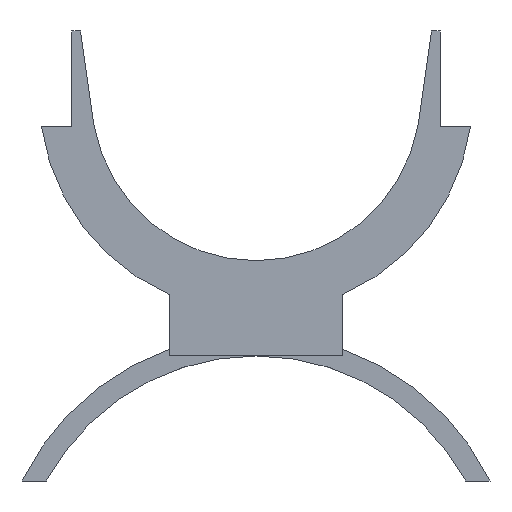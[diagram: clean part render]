
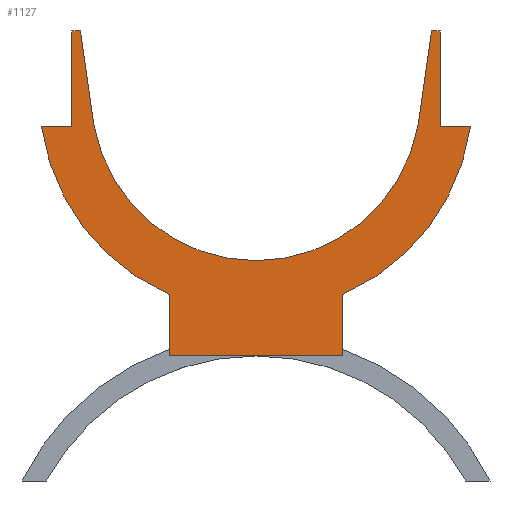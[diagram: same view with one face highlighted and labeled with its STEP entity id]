
A CAD part, front view. The second image highlights one B-rep face of the part: STEP entity #1127.
In plain terms, the highlighted planar face has unit normal (0, -1, 0).
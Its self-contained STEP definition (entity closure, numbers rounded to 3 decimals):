
#46 = FACE_OUTER_BOUND ( 'NONE', #956, .T. ) ;
#77 = CARTESIAN_POINT ( 'NONE',  ( 3.735, -12.7, 8.185 ) ) ;
#94 = CARTESIAN_POINT ( 'NONE',  ( 4.051, -12.7, 10.385 ) ) ;
#101 = DIRECTION ( 'NONE',  ( 0., 0., -1. ) ) ;
#103 = CARTESIAN_POINT ( 'NONE',  ( -4.251, -12.7, 8.185 ) ) ;
#108 = CARTESIAN_POINT ( 'NONE',  ( 0., -12.7, 5.085 ) ) ;
#111 = AXIS2_PLACEMENT_3D ( 'NONE', #1062, #1063, #1064 ) ;
#123 = AXIS2_PLACEMENT_3D ( 'NONE', #716, #717, #718 ) ;
#124 = AXIS2_PLACEMENT_3D ( 'NONE', #743, #744, #745 ) ;
#156 = VERTEX_POINT ( 'NONE', #94 ) ;
#175 = VERTEX_POINT ( 'NONE', #77 ) ;
#176 = VERTEX_POINT ( 'NONE', #108 ) ;
#301 = AXIS2_PLACEMENT_3D ( 'NONE', #1583, #1589, #1590 ) ;
#333 = EDGE_CURVE ( 'NONE', #1456, #1468, #1355, .T. ) ;
#336 = EDGE_CURVE ( 'NONE', #1469, #1456, #1220, .T. ) ;
#338 = EDGE_CURVE ( 'NONE', #1459, #1469, #1226, .T. ) ;
#345 = EDGE_CURVE ( 'NONE', #1468, #1508, #1237, .T. ) ;
#350 = EDGE_CURVE ( 'NONE', #176, #1459, #1246, .T. ) ;
#409 = CARTESIAN_POINT ( 'NONE',  ( -2., -12.7, 5.085 ) ) ;
#410 = DIRECTION ( 'NONE',  ( 0., 0., -1. ) ) ;
#425 = CARTESIAN_POINT ( 'NONE',  ( 4.251, -12.7, 10.385 ) ) ;
#426 = DIRECTION ( 'NONE',  ( 0., 0., 1. ) ) ;
#668 = ORIENTED_EDGE ( 'NONE', *, *, #336, .T. ) ;
#670 = ORIENTED_EDGE ( 'NONE', *, *, #820, .T. ) ;
#671 = ORIENTED_EDGE ( 'NONE', *, *, #806, .T. ) ;
#712 = CARTESIAN_POINT ( 'NONE',  ( 4.251, -12.7, 8.185 ) ) ;
#713 = DIRECTION ( 'NONE',  ( -1., 0., 0. ) ) ;
#716 = CARTESIAN_POINT ( 'NONE',  ( 0., -12.7, 8.885 ) ) ;
#717 = DIRECTION ( 'NONE',  ( 0., -1., 0. ) ) ;
#718 = DIRECTION ( 'NONE',  ( 0., 0., -1. ) ) ;
#721 = CARTESIAN_POINT ( 'NONE',  ( 4.051, -12.7, 10.385 ) ) ;
#722 = DIRECTION ( 'NONE',  ( -1., 0., 0. ) ) ;
#723 = DIRECTION ( 'NONE',  ( 1., 0., 0. ) ) ;
#725 = CARTESIAN_POINT ( 'NONE',  ( 3.735, -12.7, 8.185 ) ) ;
#738 = CARTESIAN_POINT ( 'NONE',  ( -2., -12.7, 2.885 ) ) ;
#740 = DIRECTION ( 'NONE',  ( -0.142, 0., -0.99 ) ) ;
#743 = CARTESIAN_POINT ( 'NONE',  ( 0., -12.7, 8.885 ) ) ;
#744 = DIRECTION ( 'NONE',  ( 0., -1., 0. ) ) ;
#745 = DIRECTION ( 'NONE',  ( 0., 0., -1. ) ) ;
#750 = CARTESIAN_POINT ( 'NONE',  ( 2., -12.7, 2.885 ) ) ;
#751 = DIRECTION ( 'NONE',  ( 0., 0., 1. ) ) ;
#761 = EDGE_CURVE ( 'NONE', #175, #176, #1691, .T. ) ;
#802 = EDGE_CURVE ( 'NONE', #1460, #1486, #1390, .T. ) ;
#803 = EDGE_CURVE ( 'NONE', #1508, #1466, #1392, .T. ) ;
#806 = EDGE_CURVE ( 'NONE', #1474, #156, #1397, .T. ) ;
#809 = EDGE_CURVE ( 'NONE', #156, #175, #1402, .T. ) ;
#810 = EDGE_CURVE ( 'NONE', #1506, #1460, #1403, .T. ) ;
#811 = EDGE_CURVE ( 'NONE', #1491, #1490, #1405, .T. ) ;
#814 = EDGE_CURVE ( 'NONE', #1490, #1506, #1410, .T. ) ;
#818 = EDGE_CURVE ( 'NONE', #1466, #1491, #1418, .T. ) ;
#820 = EDGE_CURVE ( 'NONE', #1486, #1474, #1422, .T. ) ;
#833 = AXIS2_PLACEMENT_3D ( 'NONE', #856, #861, #874 ) ;
#841 = CARTESIAN_POINT ( 'NONE',  ( -4.051, -12.7, 10.385 ) ) ;
#844 = DIRECTION ( 'NONE',  ( -1., 0., 0. ) ) ;
#849 = DIRECTION ( 'NONE',  ( -0.142, 0., 0.99 ) ) ;
#852 = DIRECTION ( 'NONE',  ( -1., 0., 0. ) ) ;
#855 = CARTESIAN_POINT ( 'NONE',  ( -4.951, -12.7, 8.185 ) ) ;
#856 = CARTESIAN_POINT ( 'NONE',  ( 0., -12.7, 8.885 ) ) ;
#861 = DIRECTION ( 'NONE',  ( 0., 1., 0. ) ) ;
#874 = DIRECTION ( 'NONE',  ( 0., 0., -1. ) ) ;
#881 = CARTESIAN_POINT ( 'NONE',  ( -4.251, -12.7, 10.385 ) ) ;
#894 = CARTESIAN_POINT ( 'NONE',  ( 4.251, -12.7, 8.185 ) ) ;
#898 = CARTESIAN_POINT ( 'NONE',  ( 2., -12.7, 2.885 ) ) ;
#899 = CARTESIAN_POINT ( 'NONE',  ( -2., -12.7, 2.885 ) ) ;
#914 = CARTESIAN_POINT ( 'NONE',  ( 2., -12.7, 4.302 ) ) ;
#916 = CARTESIAN_POINT ( 'NONE',  ( -4.951, -12.7, 8.185 ) ) ;
#956 = EDGE_LOOP ( 'NONE', ( #1139, #1441, #1004, #1000, #1003, #976, #670, #671, #975, #968, #964, #978, #668, #974, #984 ) ) ;
#964 = ORIENTED_EDGE ( 'NONE', *, *, #350, .T. ) ;
#968 = ORIENTED_EDGE ( 'NONE', *, *, #761, .T. ) ;
#974 = ORIENTED_EDGE ( 'NONE', *, *, #333, .T. ) ;
#975 = ORIENTED_EDGE ( 'NONE', *, *, #809, .T. ) ;
#976 = ORIENTED_EDGE ( 'NONE', *, *, #802, .T. ) ;
#978 = ORIENTED_EDGE ( 'NONE', *, *, #338, .T. ) ;
#984 = ORIENTED_EDGE ( 'NONE', *, *, #345, .T. ) ;
#1000 = ORIENTED_EDGE ( 'NONE', *, *, #814, .T. ) ;
#1003 = ORIENTED_EDGE ( 'NONE', *, *, #810, .T. ) ;
#1004 = ORIENTED_EDGE ( 'NONE', *, *, #811, .T. ) ;
#1062 = CARTESIAN_POINT ( 'NONE',  ( 0., -12.7, 8.885 ) ) ;
#1063 = DIRECTION ( 'NONE',  ( 0., 1., 0. ) ) ;
#1064 = DIRECTION ( 'NONE',  ( 0., 0., -1. ) ) ;
#1127 = ADVANCED_FACE ( 'NONE', ( #46 ), #1587, .T. ) ;
#1139 = ORIENTED_EDGE ( 'NONE', *, *, #803, .T. ) ;
#1220 = LINE ( 'NONE', #881, #1221 ) ;
#1221 = VECTOR ( 'NONE', #852, 1000. ) ;
#1226 = LINE ( 'NONE', #841, #1227 ) ;
#1227 = VECTOR ( 'NONE', #849, 1000. ) ;
#1237 = LINE ( 'NONE', #855, #1240 ) ;
#1240 = VECTOR ( 'NONE', #844, 1000. ) ;
#1246 = CIRCLE ( 'NONE', #833, 3.8 ) ;
#1355 = LINE ( 'NONE', #103, #1358 ) ;
#1358 = VECTOR ( 'NONE', #101, 1000. ) ;
#1390 = LINE ( 'NONE', #712, #1393 ) ;
#1392 = CIRCLE ( 'NONE', #123, 5. ) ;
#1393 = VECTOR ( 'NONE', #713, 1000. ) ;
#1397 = LINE ( 'NONE', #721, #1400 ) ;
#1400 = VECTOR ( 'NONE', #722, 1000. ) ;
#1402 = LINE ( 'NONE', #725, #1404 ) ;
#1403 = CIRCLE ( 'NONE', #124, 5. ) ;
#1404 = VECTOR ( 'NONE', #740, 1000. ) ;
#1405 = LINE ( 'NONE', #738, #1407 ) ;
#1407 = VECTOR ( 'NONE', #723, 1000. ) ;
#1410 = LINE ( 'NONE', #750, #1413 ) ;
#1413 = VECTOR ( 'NONE', #751, 1000. ) ;
#1418 = LINE ( 'NONE', #409, #1421 ) ;
#1421 = VECTOR ( 'NONE', #410, 1000. ) ;
#1422 = LINE ( 'NONE', #425, #1423 ) ;
#1423 = VECTOR ( 'NONE', #426, 1000. ) ;
#1441 = ORIENTED_EDGE ( 'NONE', *, *, #818, .T. ) ;
#1456 = VERTEX_POINT ( 'NONE', #1627 ) ;
#1459 = VERTEX_POINT ( 'NONE', #1625 ) ;
#1460 = VERTEX_POINT ( 'NONE', #1629 ) ;
#1466 = VERTEX_POINT ( 'NONE', #1635 ) ;
#1468 = VERTEX_POINT ( 'NONE', #1637 ) ;
#1469 = VERTEX_POINT ( 'NONE', #1638 ) ;
#1474 = VERTEX_POINT ( 'NONE', #1643 ) ;
#1486 = VERTEX_POINT ( 'NONE', #894 ) ;
#1490 = VERTEX_POINT ( 'NONE', #898 ) ;
#1491 = VERTEX_POINT ( 'NONE', #899 ) ;
#1506 = VERTEX_POINT ( 'NONE', #914 ) ;
#1508 = VERTEX_POINT ( 'NONE', #916 ) ;
#1583 = CARTESIAN_POINT ( 'NONE',  ( 0., -12.7, 0. ) ) ;
#1587 = PLANE ( 'NONE',  #301 ) ;
#1589 = DIRECTION ( 'NONE',  ( 0., -1., 0. ) ) ;
#1590 = DIRECTION ( 'NONE',  ( 0., 0., -1. ) ) ;
#1625 = CARTESIAN_POINT ( 'NONE',  ( -3.735, -12.7, 8.185 ) ) ;
#1627 = CARTESIAN_POINT ( 'NONE',  ( -4.251, -12.7, 10.385 ) ) ;
#1629 = CARTESIAN_POINT ( 'NONE',  ( 4.951, -12.7, 8.185 ) ) ;
#1635 = CARTESIAN_POINT ( 'NONE',  ( -2., -12.7, 4.302 ) ) ;
#1637 = CARTESIAN_POINT ( 'NONE',  ( -4.251, -12.7, 8.185 ) ) ;
#1638 = CARTESIAN_POINT ( 'NONE',  ( -4.051, -12.7, 10.385 ) ) ;
#1643 = CARTESIAN_POINT ( 'NONE',  ( 4.251, -12.7, 10.385 ) ) ;
#1691 = CIRCLE ( 'NONE', #111, 3.8 ) ;
